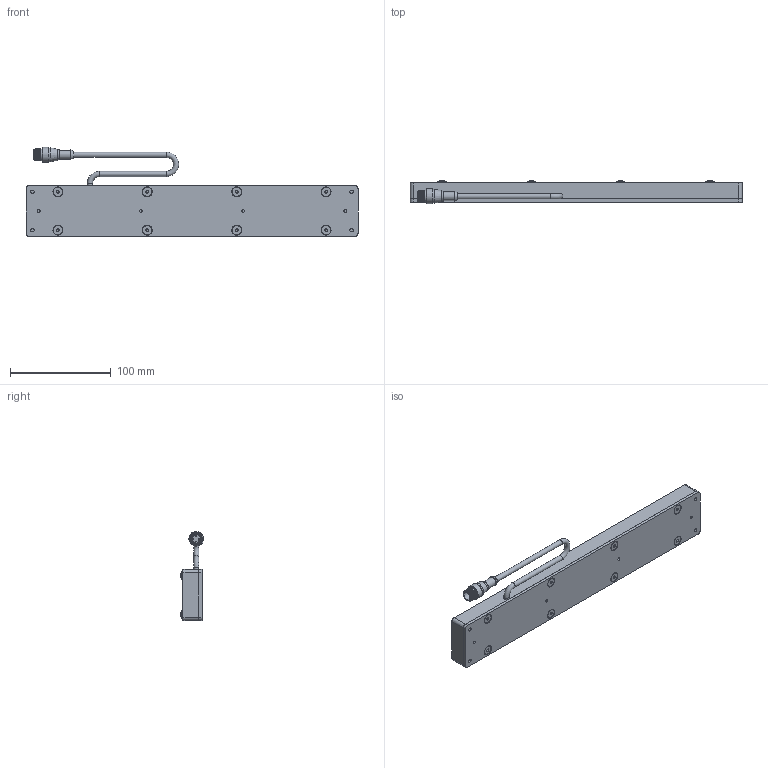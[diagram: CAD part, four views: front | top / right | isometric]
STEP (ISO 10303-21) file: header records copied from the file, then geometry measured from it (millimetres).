
FILE_DESCRIPTION (( 'STEP AP214' ), '1' );
FILE_NAME ('SBL112-XXX.STEP', '2026-04-17T16:37:15', ( '' ), ( '' ), 'SwSTEP 2.0', 'SolidWorks 2025', '' );
FILE_SCHEMA (( 'AUTOMOTIVE_DESIGN' ));
Length unit declared in the file: inch
Products named in the file (10): MC Pigtail 24; 8-32 x .375 Nylon Screw_.375" 94611A192; M12 Connector 4,5 and 8 pin; SBL112-XXX; Housing SBL112; SC Pigtail Complete 18_4pin; WD-SBLYYXX_1x12 with holes; 8-32 x 0.375 FHCS (92210A192)_92210A192; Hex Standoff X.X x 8-32_0.375; BackPlate BLYYXX_0112
Assembly tree (30 placements, depth 3):
  SBL112-XXX
    Housing SBL112
    BackPlate BLYYXX_0112
    WD-SBLYYXX_1x12 with holes
    8-32 x 0.375 FHCS (92210A192)_92210A192  x8
    Hex Standoff X.X x 8-32_0.375  x8
    8-32 x .375 Nylon Screw_.375" 94611A192  x8
    SC Pigtail Complete 18_4pin
      MC Pigtail 24
      M12 Connector 4,5 and 8 pin
Bounding box: 330.2 x 23.12 x 88.59 mm (x, y, z)
Volume: 221270.4 mm3; surface area: 125009.4 mm2
Topology: 29 solids, 29 shells, 850 faces, 2084 edges, 1326 vertices
Faces by surface type: plane 313, bspline 216, cone 147, cylinder 141, torus 21, sphere 12
Full cylindrical faces by diameter (mm): 0.762 x4, 2.705 x4, 3.454 x12, 4.496 x24, 5.207 x3, 6.604 x4, 6.858 x8, 8.128 x8, 8.382 x1, 8.636 x1, 9.119 x8, 10.16 x1, 10.541 x1, 11.938 x1, 13.716 x2, 14.732 x1
Entity records: 12630 total; most frequent: CARTESIAN_POINT 5078, DIRECTION 1260, ORIENTED_EDGE 1054, AXIS2_PLACEMENT_3D 536, EDGE_CURVE 527, EDGE_LOOP 482, VERTEX_POINT 399, FACE_OUTER_BOUND 350
